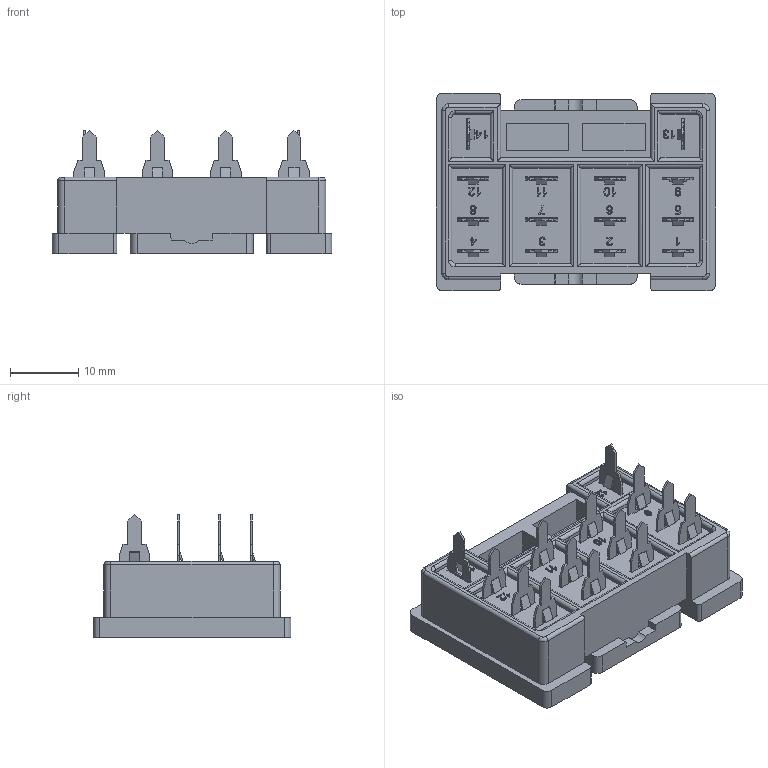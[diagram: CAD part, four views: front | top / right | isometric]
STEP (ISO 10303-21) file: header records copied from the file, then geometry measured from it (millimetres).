
FILE_DESCRIPTION(/* description */ (''),/* implementation_level */ '2;1');
FILE_NAME(/* name */ 'A222.stp',/* time_stamp */ '2019-03-20T14:28:29+08:00',/* author */ (''),/* organization */ (''),/* preprocessor_version */ 'ST-DEVELOPER v16.7',/* originating_system */ 'SIEMENS PLM Software NX 12.0',/* authorisation */ '');
FILE_SCHEMA (('AUTOMOTIVE_DESIGN { 1 0 10303 214 3 1 1 1 }'));
Products named in the file (1): model1
Bounding box: 41 x 29 x 18.1 mm (x, y, z)
Volume: 8641.4 mm3; surface area: 9666.5 mm2
Topology: 15 solids, 15 shells, 1837 faces, 4811 edges, 3066 vertices
Faces by surface type: plane 1347, cylinder 327, extrusion 85, bspline 32, sphere 28, torus 18
Entity records: 68122 total; most frequent: CARTESIAN_POINT 12414, ORIENTED_EDGE 9594, DIRECTION 8764, EDGE_CURVE 4797, VECTOR 3682, LINE 3597, VERTEX_POINT 3066, AXIS2_PLACEMENT_3D 2541
